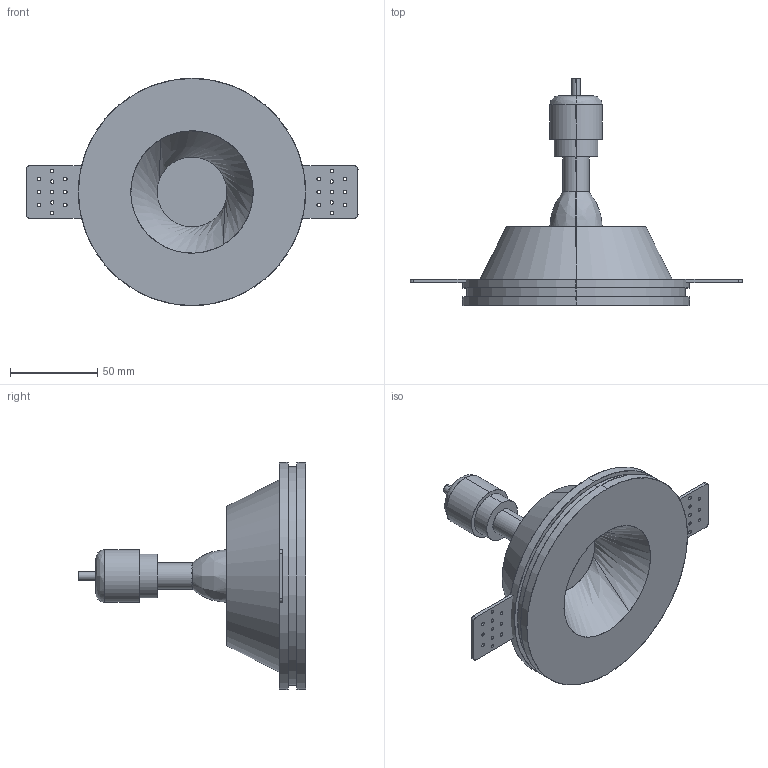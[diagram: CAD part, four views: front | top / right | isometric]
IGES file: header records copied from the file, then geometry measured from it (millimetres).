
Start section: SolidWorks IGES file using analytic representation for surfaces
Global section: file name: C:\Users\danielet\Desktop\3D CARLOS\YOTA-P3408-3D\YOTA-P3408-3D.IGS; native system: SolidWorks 2018; preprocessor: SolidWorks 2018; author: danielet; date: 220125.123757; units: millimetre
Bounding box: 190 x 130 x 130 mm (x, y, z)
Surface area: 54305.9 mm2 (no closed solid volume)
Topology: 0 solids, 0 shells, 92 faces, 2728 edges, 2728 vertices
Faces by surface type: revolution 64, bspline 28
